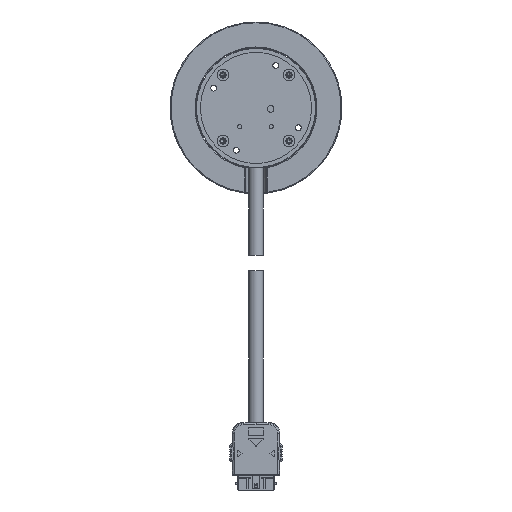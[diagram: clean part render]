
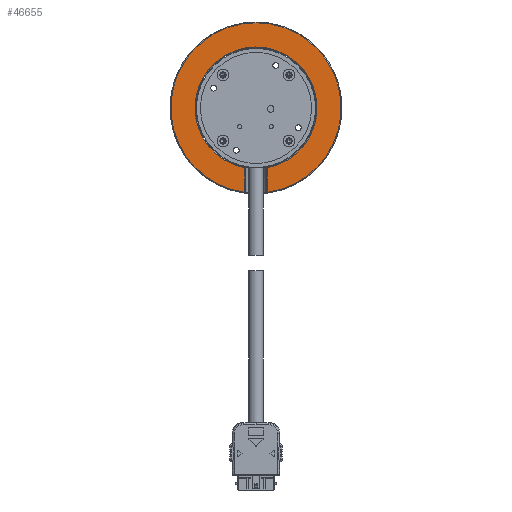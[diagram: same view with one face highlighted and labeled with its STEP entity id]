
A CAD part, front view. The second image highlights one B-rep face of the part: STEP entity #46655.
In plain terms, the highlighted planar face has unit normal (0, -1, 0).
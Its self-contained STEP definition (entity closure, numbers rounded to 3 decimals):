
#203 = CARTESIAN_POINT ( 'NONE',  ( 0., 0., 0. ) ) ;
#797 = CARTESIAN_POINT ( 'NONE',  ( -4.3, 0., 0. ) ) ;
#2523 = ORIENTED_EDGE ( 'NONE', *, *, #10946, .T. ) ;
#3188 = EDGE_LOOP ( 'NONE', ( #39480, #2523, #50407, #37210, #30177 ) ) ;
#6588 = CIRCLE ( 'NONE', #74094, 23.05 ) ;
#9818 = EDGE_CURVE ( 'NONE', #19149, #46532, #10386, .T. ) ;
#10118 = CARTESIAN_POINT ( 'NONE',  ( 0., 0., 0. ) ) ;
#10386 = CIRCLE ( 'NONE', #62719, 32.2 ) ;
#10946 = EDGE_CURVE ( 'NONE', #14056, #19149, #30553, .T. ) ;
#12959 = VECTOR ( 'NONE', #78666, 1000. ) ;
#14056 = VERTEX_POINT ( 'NONE', #47591 ) ;
#19149 = VERTEX_POINT ( 'NONE', #38749 ) ;
#19875 = CARTESIAN_POINT ( 'NONE',  ( -4.3, 0., -22.645 ) ) ;
#22240 = AXIS2_PLACEMENT_3D ( 'NONE', #30095, #29662, #23220 ) ;
#22609 = AXIS2_PLACEMENT_3D ( 'NONE', #10118, #36824, #69241 ) ;
#23220 = DIRECTION ( 'NONE',  ( 0., 0., 1. ) ) ;
#25127 = LINE ( 'NONE', #85157, #12959 ) ;
#25357 = EDGE_CURVE ( 'NONE', #83261, #64797, #6588, .T. ) ;
#27072 = DIRECTION ( 'NONE',  ( 0., 0., 1. ) ) ;
#29098 = CARTESIAN_POINT ( 'NONE',  ( 0., 0., 0. ) ) ;
#29662 = DIRECTION ( 'NONE',  ( 0., -1., 0. ) ) ;
#30095 = CARTESIAN_POINT ( 'NONE',  ( 0., 0., 0. ) ) ;
#30177 = ORIENTED_EDGE ( 'NONE', *, *, #25357, .T. ) ;
#30553 = CIRCLE ( 'NONE', #22240, 32.2 ) ;
#36824 = DIRECTION ( 'NONE',  ( 0., 1., 0. ) ) ;
#37210 = ORIENTED_EDGE ( 'NONE', *, *, #84369, .T. ) ;
#38749 = CARTESIAN_POINT ( 'NONE',  ( 0., 0., 32.2 ) ) ;
#39480 = ORIENTED_EDGE ( 'NONE', *, *, #45732, .T. ) ;
#40442 = LINE ( 'NONE', #797, #59367 ) ;
#41162 = CARTESIAN_POINT ( 'NONE',  ( -4.3, 0., -31.912 ) ) ;
#42863 = FACE_OUTER_BOUND ( 'NONE', #3188, .T. ) ;
#45732 = EDGE_CURVE ( 'NONE', #64797, #14056, #25127, .T. ) ;
#46532 = VERTEX_POINT ( 'NONE', #41162 ) ;
#46655 = ADVANCED_FACE ( 'NONE', ( #42863 ), #51086, .F. ) ;
#47591 = CARTESIAN_POINT ( 'NONE',  ( 4.3, 0., -31.912 ) ) ;
#50407 = ORIENTED_EDGE ( 'NONE', *, *, #9818, .T. ) ;
#51086 = PLANE ( 'NONE',  #22609 ) ;
#59367 = VECTOR ( 'NONE', #27072, 1000. ) ;
#62360 = DIRECTION ( 'NONE',  ( 0., 0., 1. ) ) ;
#62719 = AXIS2_PLACEMENT_3D ( 'NONE', #29098, #74890, #62360 ) ;
#64797 = VERTEX_POINT ( 'NONE', #74238 ) ;
#67090 = DIRECTION ( 'NONE',  ( 0., 0., 1. ) ) ;
#69241 = DIRECTION ( 'NONE',  ( 0., 0., 1. ) ) ;
#74094 = AXIS2_PLACEMENT_3D ( 'NONE', #203, #79618, #67090 ) ;
#74238 = CARTESIAN_POINT ( 'NONE',  ( 4.3, 0., -22.645 ) ) ;
#74890 = DIRECTION ( 'NONE',  ( 0., -1., 0. ) ) ;
#78666 = DIRECTION ( 'NONE',  ( 0., 0., -1. ) ) ;
#79618 = DIRECTION ( 'NONE',  ( 0., 1., 0. ) ) ;
#83261 = VERTEX_POINT ( 'NONE', #19875 ) ;
#84369 = EDGE_CURVE ( 'NONE', #46532, #83261, #40442, .T. ) ;
#85157 = CARTESIAN_POINT ( 'NONE',  ( 4.3, 0., 0. ) ) ;
